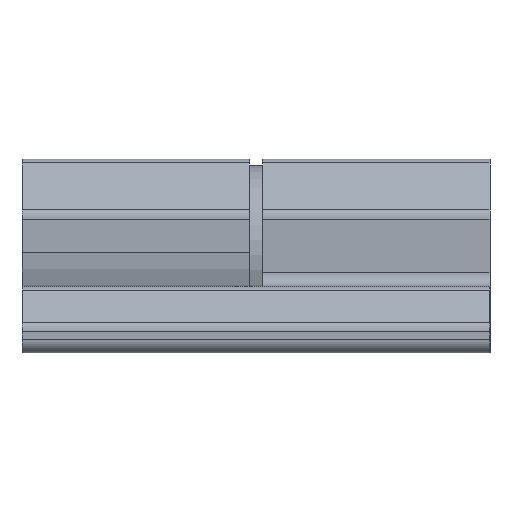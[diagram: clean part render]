
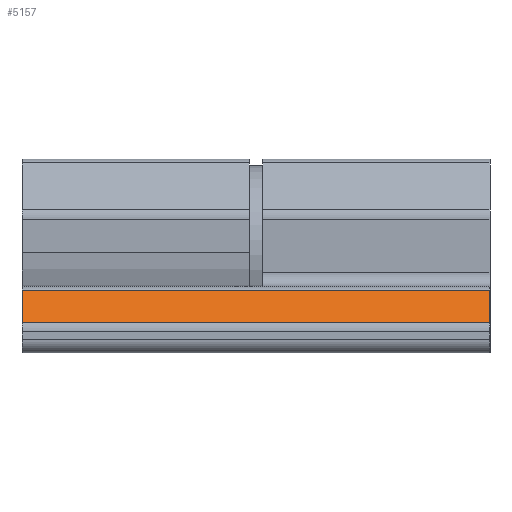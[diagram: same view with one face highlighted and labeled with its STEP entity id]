
A CAD part, left-side view. The second image highlights one B-rep face of the part: STEP entity #5157.
In plain terms, the highlighted planar face has unit normal (-0.707, 0, 0.707).
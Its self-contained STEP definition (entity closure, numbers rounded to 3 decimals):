
#1 = EDGE_CURVE ( 'NONE', #2833, #3311, #652, .T. ) ;
#400 = CARTESIAN_POINT ( 'NONE',  ( -29.707, 35., -5.207 ) ) ;
#416 = DIRECTION ( 'NONE',  ( 0.707, 0., 0.707 ) ) ;
#510 = LINE ( 'NONE', #860, #2590 ) ;
#571 = FACE_OUTER_BOUND ( 'NONE', #3973, .T. ) ;
#641 = CARTESIAN_POINT ( 'NONE',  ( -27.293, 35., -2.793 ) ) ;
#652 = LINE ( 'NONE', #641, #4969 ) ;
#860 = CARTESIAN_POINT ( 'NONE',  ( -29.707, 0., -5.207 ) ) ;
#896 = LINE ( 'NONE', #400, #1891 ) ;
#1164 = VERTEX_POINT ( 'NONE', #1320 ) ;
#1239 = LINE ( 'NONE', #4761, #5424 ) ;
#1320 = CARTESIAN_POINT ( 'NONE',  ( -29.707, 0., -5.207 ) ) ;
#1336 = PLANE ( 'NONE',  #3830 ) ;
#1702 = DIRECTION ( 'NONE',  ( 0.707, 0., 0.707 ) ) ;
#1747 = ORIENTED_EDGE ( 'NONE', *, *, #3324, .T. ) ;
#1762 = DIRECTION ( 'NONE',  ( 0.707, 0., -0.707 ) ) ;
#1891 = VECTOR ( 'NONE', #416, 1000. ) ;
#2012 = ORIENTED_EDGE ( 'NONE', *, *, #3947, .T. ) ;
#2211 = CARTESIAN_POINT ( 'NONE',  ( -29.707, 35., -5.207 ) ) ;
#2568 = CARTESIAN_POINT ( 'NONE',  ( -29.707, 35., -5.207 ) ) ;
#2590 = VECTOR ( 'NONE', #1702, 1000. ) ;
#2718 = ORIENTED_EDGE ( 'NONE', *, *, #4301, .F. ) ;
#2780 = ORIENTED_EDGE ( 'NONE', *, *, #1, .F. ) ;
#2833 = VERTEX_POINT ( 'NONE', #5242 ) ;
#3311 = VERTEX_POINT ( 'NONE', #5033 ) ;
#3324 = EDGE_CURVE ( 'NONE', #1164, #3311, #510, .T. ) ;
#3558 = DIRECTION ( 'NONE',  ( 0., -1., 0. ) ) ;
#3830 = AXIS2_PLACEMENT_3D ( 'NONE', #2568, #1762, #4674 ) ;
#3925 = DIRECTION ( 'NONE',  ( 0., -1., 0. ) ) ;
#3947 = EDGE_CURVE ( 'NONE', #5212, #1164, #1239, .T. ) ;
#3973 = EDGE_LOOP ( 'NONE', ( #1747, #2780, #2718, #2012 ) ) ;
#4301 = EDGE_CURVE ( 'NONE', #5212, #2833, #896, .T. ) ;
#4674 = DIRECTION ( 'NONE',  ( -0.707, 0., -0.707 ) ) ;
#4761 = CARTESIAN_POINT ( 'NONE',  ( -29.707, 35., -5.207 ) ) ;
#4969 = VECTOR ( 'NONE', #3558, 1000. ) ;
#5033 = CARTESIAN_POINT ( 'NONE',  ( -27.293, 0., -2.793 ) ) ;
#5157 = ADVANCED_FACE ( 'NONE', ( #571 ), #1336, .F. ) ;
#5212 = VERTEX_POINT ( 'NONE', #2211 ) ;
#5242 = CARTESIAN_POINT ( 'NONE',  ( -27.293, 35., -2.793 ) ) ;
#5424 = VECTOR ( 'NONE', #3925, 1000. ) ;
